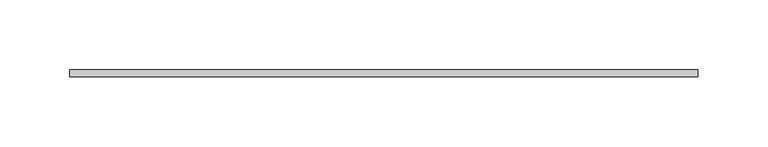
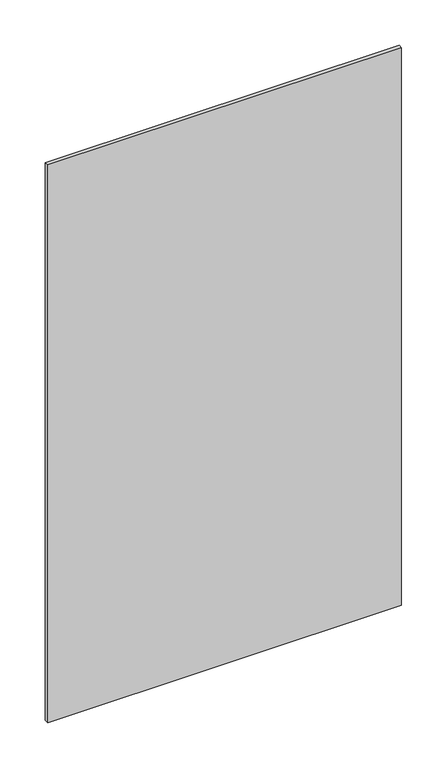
"""IFC4 building model written with IfcOpenShell, lengths in millimetres: damper geometry, ZYR_15.03 Unió Rect Conducte : ZYR_15.03 Unió Rect Conducte."""

from ifc_helpers import new_model, si_unit, frame, origin, place, context, project, spatial, polyline, outline, extrude, source, transform, mapped, element, save


def damper_48eb9ffc(model_context):
    return source(origin(), model_context, "Body", "SweptSolid", [
        extrude(outline(polyline([(225.0, -2.5), (-225.0, -2.5), (-225.0, 2.5), (225.0, 2.5), (225.0, -2.5)])), frame((0.0, 0.0, -375.0), z_axis=(0.0, 0.0, 1.0), x_axis=(1.0, 0.0, 0.0)), (0.0, 0.0, 1.0), 750.0),
    ])


if __name__ == "__main__":
    model = new_model("IFC4")
    model_context = context("Model", 3, world=origin())
    ifc_project = project(units=[si_unit("LENGTHUNIT", "METRE", prefix="MILLI")], contexts=[model_context])
    site = spatial("IfcSite", under=ifc_project)
    building = spatial("IfcBuilding", under=site)
    placement = place(None, origin())
    damper_shape = damper_48eb9ffc(model_context)
    element("IfcDamper", 1, ObjectType="ZYR_15.03 Unió Rect Conducte : ZYR_15.03 Unió Rect Conducte", at=placement, inside=building, context=model_context, shape_type="MappedRepresentation", body=[
        mapped(damper_shape, transform((0.0, 0.0, 0.0), x_axis=(1.0, 0.0, 0.0), y_axis=(0.0, 1.0, 0.0), z_axis=(0.0, 0.0, 1.0))),
    ])
    save(model, "model.ifc")
